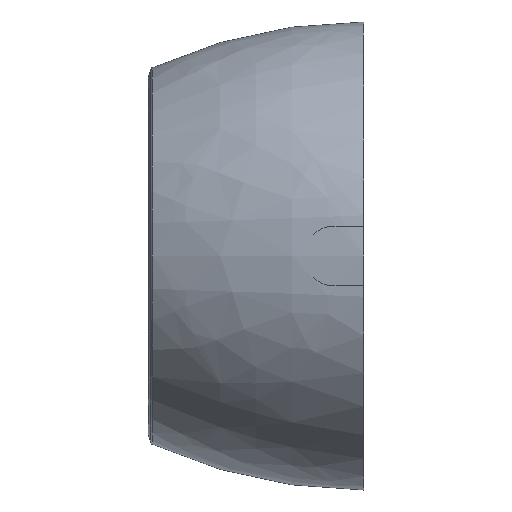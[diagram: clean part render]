
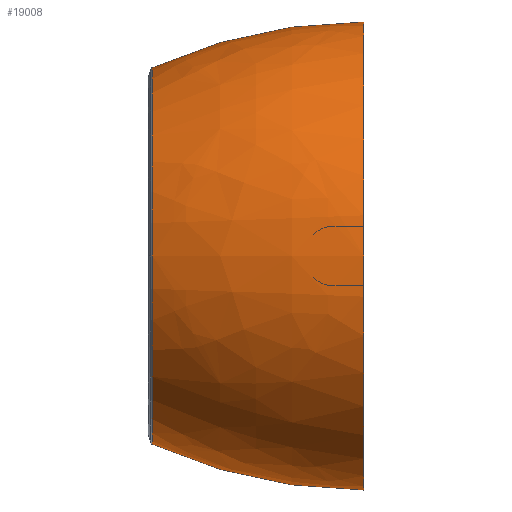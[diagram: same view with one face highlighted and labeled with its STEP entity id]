
A CAD part, left-side view. The second image highlights one B-rep face of the part: STEP entity #19008.
In plain terms, the highlighted free-form (B-spline) face has degree [3, 3] with [7, 4] control points.
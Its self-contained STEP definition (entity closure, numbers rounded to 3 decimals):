
#1068=CARTESIAN_POINT('',(0.,0.,0.));
#1069=DIRECTION('',(0.,-1.,0.));
#1070=DIRECTION('',(-1.,0.,0.));
#1071=AXIS2_PLACEMENT_3D('',#1068,#1069,#1070);
#1076=CARTESIAN_POINT('',(0.,0.,0.));
#1077=DIRECTION('',(0.,-1.,0.));
#1078=DIRECTION('',(0.,0.,1.));
#1079=AXIS2_PLACEMENT_3D('',#1076,#1077,#1078);
#7882=CARTESIAN_POINT('',(0.,0.,51.127));
#7883=DIRECTION('',(-1.,0.,0.));
#7884=DIRECTION('',(0.,0.413,-0.911));
#7885=AXIS2_PLACEMENT_3D('',#7882,#7883,#7884);
#7890=CARTESIAN_POINT('',(0.,38.883,0.));
#7891=DIRECTION('',(0.,1.,0.));
#7892=DIRECTION('',(0.,0.,-1.));
#7893=AXIS2_PLACEMENT_3D('',#7890,#7891,#7892);
#7898=CARTESIAN_POINT('',(0.,0.,-51.127));
#7899=DIRECTION('',(1.,0.,0.));
#7900=DIRECTION('',(0.,0.413,0.911));
#7901=AXIS2_PLACEMENT_3D('',#7898,#7899,#7900);
#8686=CARTESIAN_POINT('',(0.,0.,43.));
#8688=VERTEX_POINT('',#8686);
#8689=CARTESIAN_POINT('',(-43.,0.,0.));
#8690=VERTEX_POINT('',#8689);
#9486=CARTESIAN_POINT('',(0.,38.883,
-34.594));
#9487=CARTESIAN_POINT('',(0.,0.,-43.));
#9488=VERTEX_POINT('',#9486);
#9489=VERTEX_POINT('',#9487);
#9490=CARTESIAN_POINT('',(0.,38.883,34.594));
#9491=VERTEX_POINT('',#9490);
#18969=CARTESIAN_POINT('',(2.151,39.612,34.192));
#18970=CARTESIAN_POINT('',(2.521,26.902,40.076));
#18971=CARTESIAN_POINT('',(2.707,13.208,43.031));
#18972=CARTESIAN_POINT('',(2.7,-0.802,
42.912));
#18973=CARTESIAN_POINT('',(-18.89,39.612,
35.515));
#18974=CARTESIAN_POINT('',(-22.141,26.902,
41.628));
#18975=CARTESIAN_POINT('',(-23.774,13.208,
44.697));
#18976=CARTESIAN_POINT('',(-23.708,-0.802,
44.573));
#18977=CARTESIAN_POINT('',(-34.259,39.612,
21.083));
#18978=CARTESIAN_POINT('',(-40.155,26.902,
24.711));
#18979=CARTESIAN_POINT('',(-43.116,13.208,
26.533));
#18980=CARTESIAN_POINT('',(-42.997,-0.802,
26.46));
#18981=CARTESIAN_POINT('',(-34.259,39.612,
0.));
#18982=CARTESIAN_POINT('',(-40.155,26.902,
0.));
#18983=CARTESIAN_POINT('',(-43.116,13.208,
0.));
#18984=CARTESIAN_POINT('',(-42.997,-0.802,
0.));
#18985=CARTESIAN_POINT('',(-34.259,39.612,
-21.083));
#18986=CARTESIAN_POINT('',(-40.155,26.902,
-24.711));
#18987=CARTESIAN_POINT('',(-43.116,13.208,
-26.533));
#18988=CARTESIAN_POINT('',(-42.997,-0.802,
-26.46));
#18989=CARTESIAN_POINT('',(-18.89,39.612,
-35.515));
#18990=CARTESIAN_POINT('',(-22.141,26.902,
-41.628));
#18991=CARTESIAN_POINT('',(-23.774,13.208,
-44.697));
#18992=CARTESIAN_POINT('',(-23.708,-0.802,
-44.573));
#18993=CARTESIAN_POINT('',(2.151,39.612,
-34.192));
#18994=CARTESIAN_POINT('',(2.521,26.902,
-40.076));
#18995=CARTESIAN_POINT('',(2.707,13.208,
-43.031));
#18996=CARTESIAN_POINT('',(2.7,-0.802,
-42.912));
#18997=(BOUNDED_SURFACE()B_SPLINE_SURFACE(3,3,((#18969,#18970,#18971,#18972),(
#18973,#18974,#18975,#18976),(#18977,#18978,#18979,#18980),(#18981,#18982,
#18983,#18984),(#18985,#18986,#18987,#18988),(#18989,#18990,#18991,#18992),(
#18993,#18994,#18995,#18996)),.UNSPECIFIED.,.F.,.F.,.F.)B_SPLINE_SURFACE_WITH_KNOTS((4,3,4),(4,4),(0.,1.,2.),(0.,1.),.UNSPECIFIED.)GEOMETRIC_REPRESENTATION_ITEM()RATIONAL_B_SPLINE_SURFACE(((1.202,1.182,
1.182,1.202),(0.949,0.934,
0.934,0.949),(0.949,0.934,
0.934,0.949),(1.202,1.182,
1.182,1.202),(0.949,0.934,
0.934,0.949),(0.949,0.934,
0.934,0.949),(1.202,1.182,
1.182,1.202)))REPRESENTATION_ITEM('')SURFACE());
#18999=ORIENTED_EDGE('',*,*,#18998,.F.);
#19001=ORIENTED_EDGE('',*,*,#19000,.T.);
#19003=ORIENTED_EDGE('',*,*,#19002,.T.);
#19004=ORIENTED_EDGE('',*,*,#10288,.T.);
#19005=ORIENTED_EDGE('',*,*,#10286,.T.);
#19006=EDGE_LOOP('',(#18999,#19001,#19003,#19004,#19005));
#19007=FACE_OUTER_BOUND('',#19006,.F.);
#1072=CIRCLE('',#1071,43.);
#1080=CIRCLE('',#1079,43.);
#7886=CIRCLE('',#7885,94.127);
#7894=CIRCLE('',#7893,34.594);
#7902=CIRCLE('',#7901,94.127);
#10286=EDGE_CURVE('',#8690,#9489,#1072,.T.);
#10288=EDGE_CURVE('',#8688,#8690,#1080,.T.);
#18998=EDGE_CURVE('',#9488,#9489,#7886,.T.);
#19000=EDGE_CURVE('',#9488,#9491,#7894,.T.);
#19002=EDGE_CURVE('',#9491,#8688,#7902,.T.);
#19008=ADVANCED_FACE('',(#19007),#18997,.T.);
